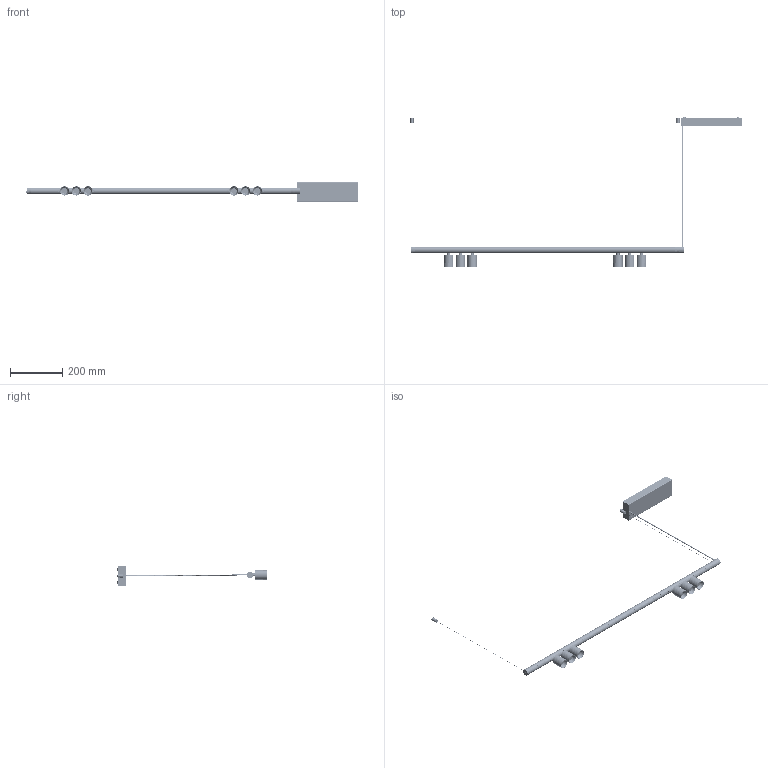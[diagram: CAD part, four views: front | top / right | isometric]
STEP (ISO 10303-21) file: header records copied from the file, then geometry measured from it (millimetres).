
FILE_DESCRIPTION (( 'STEP AP214' ), '1' );
FILE_NAME ('OVAL ROLL 10 surf.STEP', '2024-03-21T09:37:52', ( '' ), ( '' ), 'SwSTEP 2.0', 'SolidWorks 2024', '' );
FILE_SCHEMA (( 'AUTOMOTIVE_DESIGN' ));
Length unit declared in the file: millimetre
Products named in the file (42): Cable acero_0.5m; Driver Entity EN1689; Remache 3 Cabeza CONICA_remachado; Prisionero STEAB M4x4_8; Essentra Pasamuro 498025; Difusor Negro Oval_0.56m; Imán_12d*5; 04-23DM10-Boca Roll 24V_Ajust 1.0; OVAL ROLL 10 surf; Tapa Unión-Final V5_V5.1 Colgante Union ; Ensamble Conector Jack Unión_Alimentación Colgante SCPRE; CUI_DEVICES_PJ-005B_Ø2.5; CJ04-FOCO ROLL; Kgp 100w-24V; Ensamble Tensor Micro_Con Cable; Ensamble Floron Superficie_Colgante; Ensamble MISTER 11 24V_Click; Perfil Micro V4_1m; Difusor Negro Oval_0.1m; 04-23DM03-Tope_Adaptador_1.3; Tuerca Hembra Conector Jack; Conector Molex Hembra 43020; Reflector Modulo VS-R11_2; Cable_VISUAL Alimentación Micro; Ensamble Tapa + Tope_Con Conector; 04-23DM09-Cuerpo Roll 24V; Taco Micro_Ø10 M10*5; Tapa Micro V5_V5.1; Difusor Ø24_.8; Embellecedor Floron Micro_Micro Colgante; Led VS MISTER 11_Disipador; Tapon Tapa_2; Regulador Cable Ø0.6 (Bereta LT1007.0601); 04-23DM07-Adaptador_Caja_ Larga_DM01.3; Chapa Floron Micro_Techo; Tapa Alimentación Perfil_SCPRE; Taco cuerpo Micro; 04-23DM08-Adaptador_Tapa_ Largo (V1.2)_24V; Tija Tiny_Torno; COB VS MisterR11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
Assembly tree (51 placements, depth 5):
  OVAL ROLL 10 surf
    Perfil Micro V4_1m
    CJ05-ENS_Roll (V1.2)_Proyector  x2
      04-23DM07-Adaptador_Caja_ Larga_DM01.3
      04-23DM08-Adaptador_Tapa_ Largo (V1.2)_24V
      Conector Molex Hembra 43020
      Driver Entity EN1689
      04-23DM03-Tope_Adaptador_1.3
      CJ04-FOCO ROLL
        04-23DM09-Cuerpo Roll 24V
        Ensamble MISTER 11 24V_Click
          Led VS MISTER 11_Disipador
          Reflector Modulo VS-R11_2
          COB VS MisterR11
          Difusor Ø24_.8
          04-23DM10-Boca Roll 24V_Ajust 1.0
      Tija Tiny_Torno
    Difusor Negro Oval_0.1m  x2
    Difusor Negro Oval_0.56m
    Ensamble Tapa + Tope_Con Conector  x2
      Tapa Micro V5_V5.1
      CUI_DEVICES_PJ-005B_Ø2.5
      Tuerca Hembra Conector Jack
    Ensamble Tensor Micro_Con Cable  x2
      Taco Micro_Ø10 M10*5
      Taco cuerpo Micro
      Regulador Cable Ø0.6 (Bereta LT1007.0601)
      Cable acero_0.5m
    Tapa Unión-Final V5_V5.1 Colgante Union   x2
    Ensamble Floron Superficie_Colgante
      Kgp 100w-24V
      Embellecedor Floron Micro_Micro Colgante
      Chapa Floron Micro_Techo
      Remache 3 Cabeza CONICA_remachado  x2
      Imán_12d*5  x2
      Essentra Pasamuro 498025
    Ensamble Conector Jack Unión_Alimentación Colgante SCPRE
      Cable_VISUAL Alimentación Micro
      Jack_Scpre
      Tapa Alimentación Perfil_SCPRE
      Prisionero STEAB M4x4_8
    Tapon Tapa_2
Bounding box: 1274.44 x 574.57 x 75.27 mm (x, y, z)
Volume: 467673 mm3; surface area: 652436.1 mm2
Topology: 90 solids, 92 shells, 13070 faces, 34350 edges, 21638 vertices
Faces by surface type: plane 4251, cylinder 3537, bspline 3027, torus 1127, cone 810, sphere 318
Entity records: 218116 total; most frequent: CARTESIAN_POINT 102937, ORIENTED_EDGE 25714, DIRECTION 21320, EDGE_CURVE 12857, VERTEX_POINT 8231, AXIS2_PLACEMENT_3D 7154, VECTOR 7012, LINE 7012
